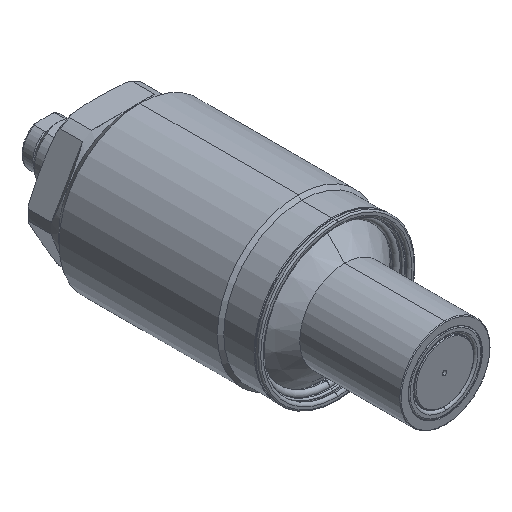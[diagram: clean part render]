
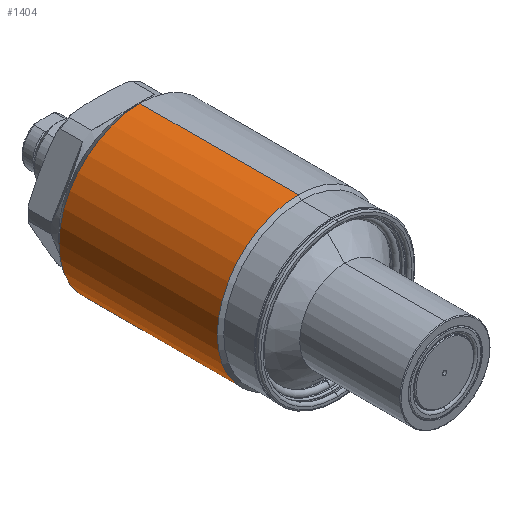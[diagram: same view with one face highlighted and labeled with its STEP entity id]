
A CAD part, isometric view. The second image highlights one B-rep face of the part: STEP entity #1404.
In plain terms, the highlighted cylindrical face has radius 22.5 mm (diameter 45 mm), a partial arc.
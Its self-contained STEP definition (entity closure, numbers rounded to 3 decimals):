
#547=CYLINDRICAL_SURFACE('',#6187,22.5);
#814=LINE('',#9683,#1115);
#815=LINE('',#9684,#1116);
#1115=VECTOR('',#7605,1.);
#1116=VECTOR('',#7606,1.);
#1404=ADVANCED_FACE('',(#1835),#547,.T.);
#1835=FACE_OUTER_BOUND('',#2223,.T.);
#2223=EDGE_LOOP('',(#3404,#3405,#3406,#3407));
#3404=ORIENTED_EDGE('',*,*,#4911,.F.);
#3405=ORIENTED_EDGE('',*,*,#5021,.T.);
#3406=ORIENTED_EDGE('',*,*,#4912,.T.);
#3407=ORIENTED_EDGE('',*,*,#5022,.F.);
#4296=VERTEX_POINT('',#9675);
#4297=VERTEX_POINT('',#9677);
#4298=VERTEX_POINT('',#9681);
#4299=VERTEX_POINT('',#9682);
#4911=EDGE_CURVE('',#4299,#4297,#814,.T.);
#4912=EDGE_CURVE('',#4298,#4296,#815,.T.);
#5021=EDGE_CURVE('',#4299,#4298,#5488,.T.);
#5022=EDGE_CURVE('',#4297,#4296,#5489,.T.);
#5488=CIRCLE('',#6184,22.5);
#5489=CIRCLE('',#6186,22.5);
#6184=AXIS2_PLACEMENT_3D('',#10072,#7887,#7888);
#6186=AXIS2_PLACEMENT_3D('',#10074,#7891,#7892);
#6187=AXIS2_PLACEMENT_3D('',#10075,#7893,#7894);
#7605=DIRECTION('',(0.,1.,0.));
#7606=DIRECTION('',(0.,1.,0.));
#7887=DIRECTION('',(0.,1.,0.));
#7888=DIRECTION('',(0.,0.,1.));
#7891=DIRECTION('',(0.,1.,0.));
#7892=DIRECTION('',(0.,0.,1.));
#7893=DIRECTION('',(0.,1.,0.));
#7894=DIRECTION('',(0.,0.,-1.));
#9675=CARTESIAN_POINT('',(0.,92.139,22.5));
#9677=CARTESIAN_POINT('',(0.,92.139,-22.5));
#9681=CARTESIAN_POINT('',(0.,48.139,22.5));
#9682=CARTESIAN_POINT('',(0.,48.139,-22.5));
#9683=CARTESIAN_POINT('',(0.,140.041,-22.5));
#9684=CARTESIAN_POINT('',(0.,140.041,22.5));
#10072=CARTESIAN_POINT('',(0.,48.139,0.));
#10074=CARTESIAN_POINT('',(0.,92.139,0.));
#10075=CARTESIAN_POINT('',(0.,140.041,0.));
